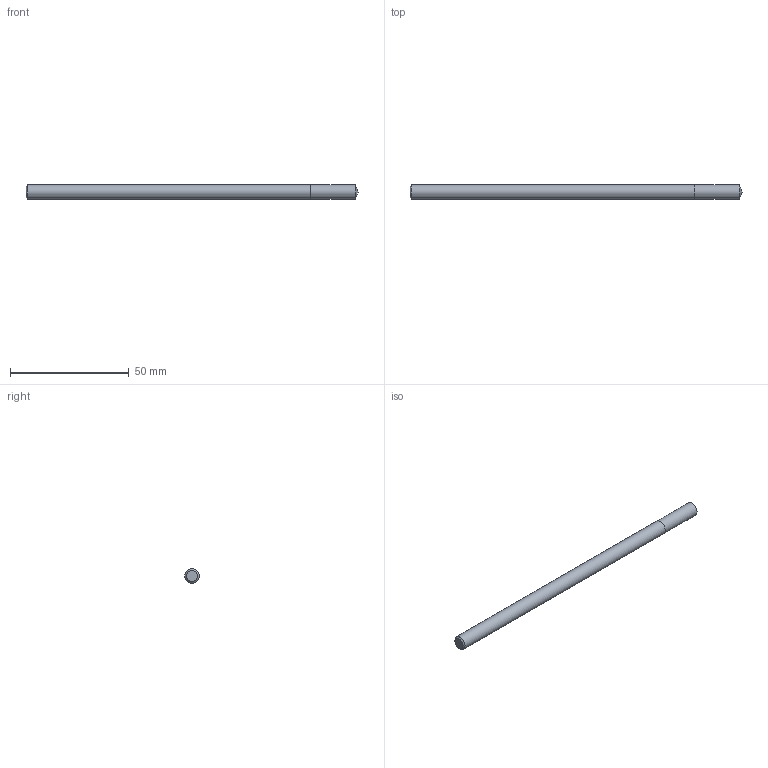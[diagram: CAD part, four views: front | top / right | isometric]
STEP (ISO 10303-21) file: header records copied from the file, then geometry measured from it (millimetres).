
FILE_DESCRIPTION (( 'STEP AP214' ), '1' );
FILE_NAME ('03-2237.STEP', '2022-02-07T07:07:21', ( 'USER' ), ( '' ), 'SwSTEP 2.0', 'SolidWorks 2018', '' );
FILE_SCHEMA (( 'AUTOMOTIVE_DESIGN' ));
Length unit declared in the file: millimetre
Products named in the file (1): 03-2237
Bounding box: 140 x 6 x 6 mm (x, y, z)
Volume: 3935.8 mm3; surface area: 2727.1 mm2
Topology: 2 solids, 2 shells, 7 faces, 11 edges, 7 vertices
Faces by surface type: plane 3, cylinder 2, cone 2
Full cylindrical faces by diameter (mm): 6 x2
Entity records: 189 total; most frequent: DIRECTION 26, CARTESIAN_POINT 18, AXIS2_PLACEMENT_3D 13, EDGE_LOOP 10, ORIENTED_EDGE 10, FACE_OUTER_BOUND 9, ADVANCED_FACE 7, UNCERTAINTY_MEASURE_WITH_UNIT 6
